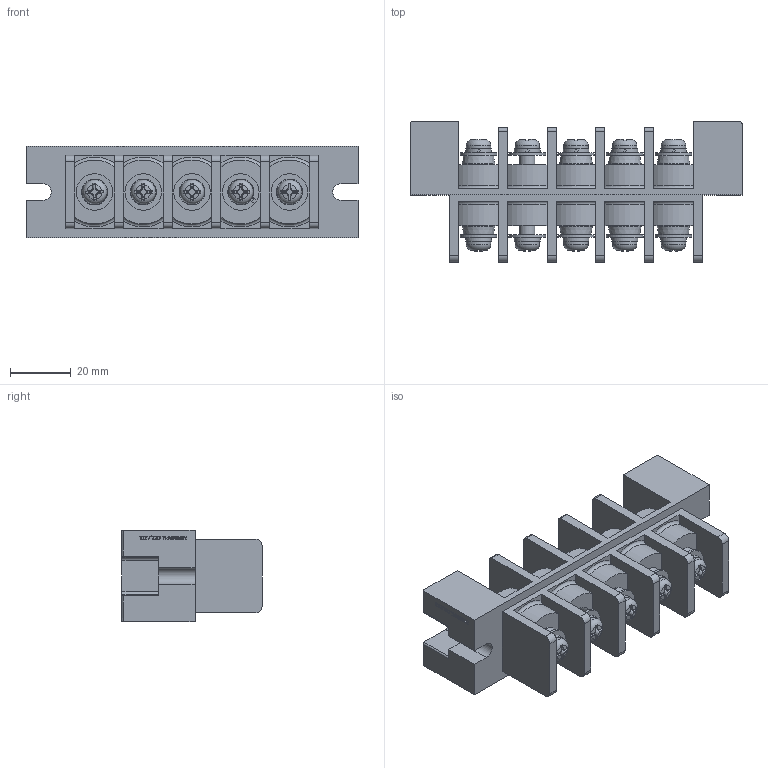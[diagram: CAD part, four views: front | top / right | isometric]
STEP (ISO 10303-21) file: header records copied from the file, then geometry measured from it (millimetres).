
FILE_DESCRIPTION(/* description */ ('Alibre Inc.'),/* implementation_level */ '2;1');
FILE_NAME(/* name */ 'export0',/* time_stamp */ '2016-01-14T19:30:13+09:00',/* author */ (''),/* organization */ (''),/* preprocessor_version */ 'ST-DEVELOPER v14',/* originating_system */ 'Alibre',/* authorisation */ '');
FILE_SCHEMA (('CONFIG_CONTROL_DESIGN'));
Length unit declared in the file: centimetre
Products named in the file (1): ID_1
Bounding box: 109 x 46 x 30 mm (x, y, z)
Volume: 66226.4 mm3; surface area: 28933.3 mm2
Topology: 3 solids, 15 shells, 769 faces, 2037 edges, 1341 vertices
Faces by surface type: plane 434, cylinder 139, cone 74, bspline 52, sphere 40, torus 30
Full cylindrical faces by diameter (mm): 4.55 x2, 5 x14, 8 x10, 10.75 x9, 12 x10
Entity records: 23702 total; most frequent: CARTESIAN_POINT 6471, ORIENTED_EDGE 3822, DIRECTION 2829, EDGE_CURVE 1911, VERTEX_POINT 1304, AXIS2_PLACEMENT_3D 1118, VECTOR 1023, LINE 1023
